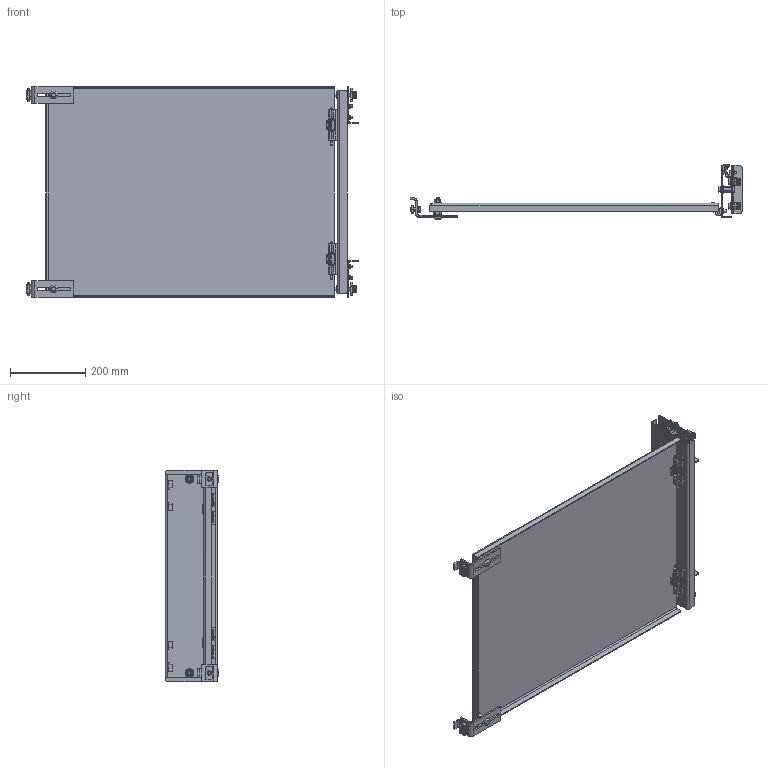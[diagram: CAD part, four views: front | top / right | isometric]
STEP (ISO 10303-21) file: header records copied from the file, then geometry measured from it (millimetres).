
FILE_DESCRIPTION((''),'2;1');
FILE_NAME('MODEL-093_ASM','2011-03-23T',('joelb'),(''),'PRO/ENGINEER BY PARAMETRIC TECHNOLOGY CORPORATION, 2009230','PRO/ENGINEER BY PARAMETRIC TECHNOLOGY CORPORATION, 2009230','');
FILE_SCHEMA(('AUTOMOTIVE_DESIGN { 1 0 10303 214 1 1 1 1 }'));
Length unit declared in the file: inch
Products named in the file (29): MODEL-093-PNL; 114875; 100022; 114875_ASM; 101369; 102532; 101369_PIN; 101670; 103288_PANEL_ASM; 102470; MODEL-093-HNG-BRKT; 100028; 101686; 103288_BRACKET_ASM; MODEL-093-MTG-BRKT; 101015; 102496; 112052; 100921; 109205; 108141; 101432; 102406; 101663; 100904; 102493; 100920; 105011; MODEL-093_ASM
Assembly tree (70 placements, depth 3):
  MODEL-093_ASM
    MODEL-093-PNL
    114875_ASM  x2
      114875
      100022
    103288_PANEL_ASM  x2
      101369
      102532
      101369_PIN
      101670
    102470  x4
    MODEL-093-HNG-BRKT
    100028  x12
    101686  x2
    103288_BRACKET_ASM  x2
      101369
      102532
      101369_PIN
      101670
    MODEL-093-MTG-BRKT  x2
    101015  x2
    102496  x4
    112052  x2
    100921  x2
    109205  x2
    108141  x4
    101432  x2
    102406  x2
    101663  x2
    100904  x2
    102493  x2
    100920  x2
    105011
Bounding box: 880.25 x 142.99 x 561.81 mm (x, y, z)
Volume: 1771219.5 mm3; surface area: 1331227.6 mm2
Topology: 76 solids, 76 shells, 3120 faces, 7182 edges, 4128 vertices
Faces by surface type: cylinder 1082, plane 962, bspline 316, torus 316, cone 224, sphere 220
Entity records: 48451 total; most frequent: CARTESIAN_POINT 18537, DIRECTION 5589, ORIENTED_EDGE 5076, EDGE_CURVE 2538, AXIS2_PLACEMENT_3D 2198, VERTEX_POINT 1515, EDGE_LOOP 1196, VECTOR 1193
